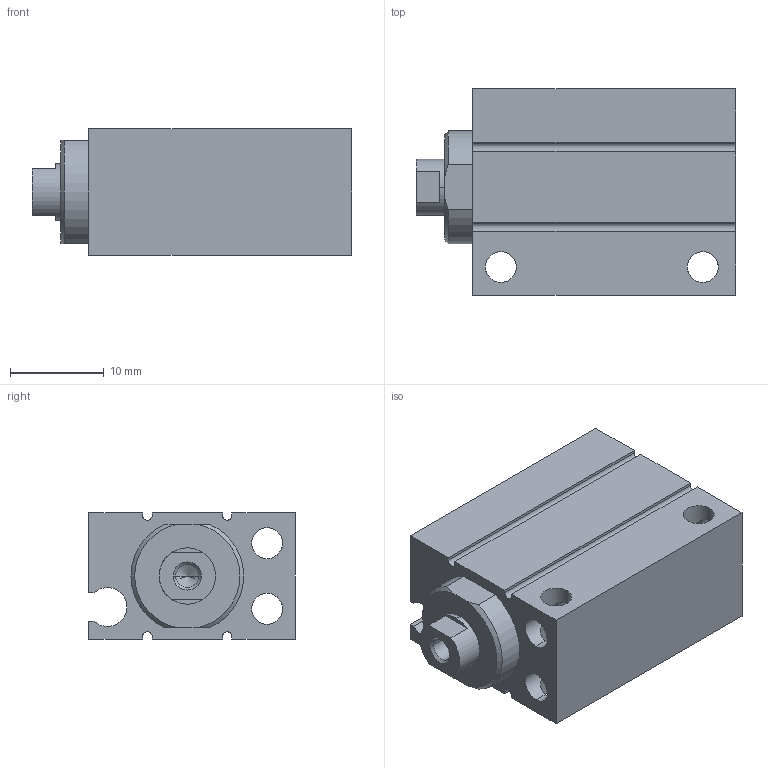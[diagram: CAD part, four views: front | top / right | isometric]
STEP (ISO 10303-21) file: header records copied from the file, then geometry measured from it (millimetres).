
FILE_DESCRIPTION (( 'STEP AP203' ), '1' );
FILE_NAME ('CLJB10-15.STEP', '2020-07-30T18:47:36', ( '' ), ( '' ), 'SwSTEP 2.0', 'SolidWorks 2019', '' );
FILE_SCHEMA (( 'CONFIG_CONTROL_DESIGN' ));
Length unit declared in the file: millimetre
Products named in the file (1): CLJB10-15
Bounding box: 34 x 22 x 13.5 mm (x, y, z)
Volume: 6821.8 mm3; surface area: 5139.8 mm2
Topology: 2 solids, 2 shells, 96 faces, 252 edges, 153 vertices
Faces by surface type: cylinder 49, plane 33, cone 14
Entity records: 2995 total; most frequent: CARTESIAN_POINT 604, ORIENTED_EDGE 492, DIRECTION 482, EDGE_CURVE 246, AXIS2_PLACEMENT_3D 175, VERTEX_POINT 153, LINE 132, VECTOR 132
